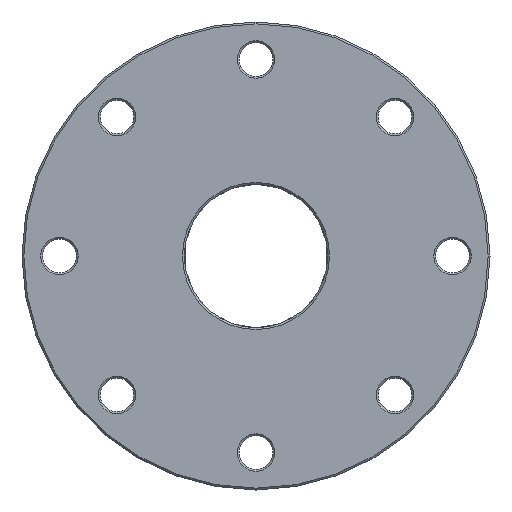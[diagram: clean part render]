
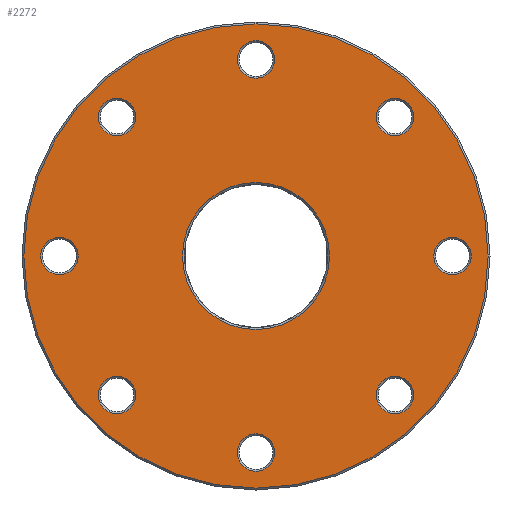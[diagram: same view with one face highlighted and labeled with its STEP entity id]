
A CAD part, front view. The second image highlights one B-rep face of the part: STEP entity #2272.
In plain terms, the highlighted planar face has unit normal (0, -1, 0).
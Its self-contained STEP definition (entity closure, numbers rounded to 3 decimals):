
#646=CARTESIAN_POINT('',(-74.246,-1.282,
-74.246));
#647=DIRECTION('',(0.,1.,0.));
#648=DIRECTION('',(0.707,0.,-0.707));
#649=AXIS2_PLACEMENT_3D('',#646,#647,#648);
#654=CARTESIAN_POINT('',(-74.246,-1.282,
-74.246));
#655=DIRECTION('',(0.,1.,0.));
#656=DIRECTION('',(-0.707,0.,0.707));
#657=AXIS2_PLACEMENT_3D('',#654,#655,#656);
#662=CARTESIAN_POINT('',(-105.,-1.282,0.));
#663=DIRECTION('',(0.,1.,0.));
#664=DIRECTION('',(0.,0.,-1.));
#665=AXIS2_PLACEMENT_3D('',#662,#663,#664);
#670=CARTESIAN_POINT('',(-105.,-1.282,0.));
#671=DIRECTION('',(0.,1.,0.));
#672=DIRECTION('',(0.,0.,1.));
#673=AXIS2_PLACEMENT_3D('',#670,#671,#672);
#678=CARTESIAN_POINT('',(-74.246,-1.282,74.246));
#679=DIRECTION('',(0.,1.,0.));
#680=DIRECTION('',(-0.707,0.,-0.707));
#681=AXIS2_PLACEMENT_3D('',#678,#679,#680);
#686=CARTESIAN_POINT('',(-74.246,-1.282,74.246));
#687=DIRECTION('',(0.,1.,0.));
#688=DIRECTION('',(0.707,0.,0.707));
#689=AXIS2_PLACEMENT_3D('',#686,#687,#688);
#694=CARTESIAN_POINT('',(0.,-1.282,105.));
#695=DIRECTION('',(0.,1.,0.));
#696=DIRECTION('',(-1.,0.,0.));
#697=AXIS2_PLACEMENT_3D('',#694,#695,#696);
#702=CARTESIAN_POINT('',(0.,-1.282,105.));
#703=DIRECTION('',(0.,1.,0.));
#704=DIRECTION('',(1.,0.,0.));
#705=AXIS2_PLACEMENT_3D('',#702,#703,#704);
#710=CARTESIAN_POINT('',(74.246,-1.282,74.246));
#711=DIRECTION('',(0.,1.,0.));
#712=DIRECTION('',(0.707,0.,-0.707));
#713=AXIS2_PLACEMENT_3D('',#710,#711,#712);
#718=CARTESIAN_POINT('',(74.246,-1.282,74.246));
#719=DIRECTION('',(0.,1.,0.));
#720=DIRECTION('',(-0.707,0.,0.707));
#721=AXIS2_PLACEMENT_3D('',#718,#719,#720);
#726=CARTESIAN_POINT('',(0.,-1.282,-105.));
#727=DIRECTION('',(0.,1.,0.));
#728=DIRECTION('',(1.,0.,0.));
#729=AXIS2_PLACEMENT_3D('',#726,#727,#728);
#734=CARTESIAN_POINT('',(0.,-1.282,-105.));
#735=DIRECTION('',(0.,1.,0.));
#736=DIRECTION('',(-1.,0.,0.));
#737=AXIS2_PLACEMENT_3D('',#734,#735,#736);
#742=CARTESIAN_POINT('',(105.,-1.282,0.));
#743=DIRECTION('',(0.,1.,0.));
#744=DIRECTION('',(0.,0.,-1.));
#745=AXIS2_PLACEMENT_3D('',#742,#743,#744);
#750=CARTESIAN_POINT('',(105.,-1.282,0.));
#751=DIRECTION('',(0.,1.,0.));
#752=DIRECTION('',(0.,0.,1.));
#753=AXIS2_PLACEMENT_3D('',#750,#751,#752);
#758=CARTESIAN_POINT('',(74.246,-1.282,-74.246));
#759=DIRECTION('',(0.,1.,0.));
#760=DIRECTION('',(-0.707,0.,-0.707));
#761=AXIS2_PLACEMENT_3D('',#758,#759,#760);
#766=CARTESIAN_POINT('',(74.246,-1.282,-74.246));
#767=DIRECTION('',(0.,1.,0.));
#768=DIRECTION('',(0.707,0.,0.707));
#769=AXIS2_PLACEMENT_3D('',#766,#767,#768);
#774=CARTESIAN_POINT('',(0.,-1.282,0.));
#775=DIRECTION('',(0.,-1.,0.));
#776=DIRECTION('',(1.,0.,0.));
#777=AXIS2_PLACEMENT_3D('',#774,#775,#776);
#782=CARTESIAN_POINT('',(0.,-1.282,0.));
#783=DIRECTION('',(0.,-1.,0.));
#784=DIRECTION('',(-1.,0.,0.));
#785=AXIS2_PLACEMENT_3D('',#782,#783,#784);
#790=CARTESIAN_POINT('',(0.,-1.282,0.));
#791=DIRECTION('',(0.,1.,0.));
#792=DIRECTION('',(-1.,0.,0.));
#793=AXIS2_PLACEMENT_3D('',#790,#791,#792);
#798=CARTESIAN_POINT('',(0.,-1.282,0.));
#799=DIRECTION('',(0.,1.,0.));
#800=DIRECTION('',(1.,0.,0.));
#801=AXIS2_PLACEMENT_3D('',#798,#799,#800);
#1593=CARTESIAN_POINT('',(-67.175,-1.282,
-81.317));
#1594=CARTESIAN_POINT('',(-81.317,-1.282,
-67.175));
#1595=VERTEX_POINT('',#1593);
#1596=VERTEX_POINT('',#1594);
#1601=CARTESIAN_POINT('',(-105.,-1.282,-10.));
#1602=CARTESIAN_POINT('',(-105.,-1.282,10.));
#1603=VERTEX_POINT('',#1601);
#1604=VERTEX_POINT('',#1602);
#1609=CARTESIAN_POINT('',(-81.317,-1.282,
67.175));
#1610=CARTESIAN_POINT('',(-67.175,-1.282,
81.317));
#1611=VERTEX_POINT('',#1609);
#1612=VERTEX_POINT('',#1610);
#1617=CARTESIAN_POINT('',(-10.,-1.282,105.));
#1618=CARTESIAN_POINT('',(10.,-1.282,105.));
#1619=VERTEX_POINT('',#1617);
#1620=VERTEX_POINT('',#1618);
#1625=CARTESIAN_POINT('',(81.317,-1.282,67.175));
#1626=CARTESIAN_POINT('',(67.175,-1.282,81.317));
#1627=VERTEX_POINT('',#1625);
#1628=VERTEX_POINT('',#1626);
#1633=CARTESIAN_POINT('',(10.,-1.282,-105.));
#1634=CARTESIAN_POINT('',(-10.,-1.282,-105.));
#1635=VERTEX_POINT('',#1633);
#1636=VERTEX_POINT('',#1634);
#1641=CARTESIAN_POINT('',(105.,-1.282,-10.));
#1642=CARTESIAN_POINT('',(105.,-1.282,10.));
#1643=VERTEX_POINT('',#1641);
#1644=VERTEX_POINT('',#1642);
#1649=CARTESIAN_POINT('',(67.175,-1.282,
-81.317));
#1650=CARTESIAN_POINT('',(81.317,-1.282,
-67.175));
#1651=VERTEX_POINT('',#1649);
#1652=VERTEX_POINT('',#1650);
#1721=CARTESIAN_POINT('',(124.,-1.282,0.));
#1722=CARTESIAN_POINT('',(-124.,-1.282,0.));
#1723=VERTEX_POINT('',#1721);
#1724=VERTEX_POINT('',#1722);
#1737=CARTESIAN_POINT('',(-39.281,-1.282,0.));
#1738=CARTESIAN_POINT('',(39.281,-1.282,0.));
#1739=VERTEX_POINT('',#1737);
#1740=VERTEX_POINT('',#1738);
#2208=CARTESIAN_POINT('',(0.,-1.282,0.));
#2209=DIRECTION('',(0.,-1.,0.));
#2210=DIRECTION('',(1.,0.,0.));
#2211=AXIS2_PLACEMENT_3D('',#2208,#2209,#2210);
#2212=PLANE('',#2211);
#2214=ORIENTED_EDGE('',*,*,#2213,.F.);
#2216=ORIENTED_EDGE('',*,*,#2215,.F.);
#2217=EDGE_LOOP('',(#2214,#2216));
#2218=FACE_OUTER_BOUND('',#2217,.F.);
#2220=ORIENTED_EDGE('',*,*,#2219,.F.);
#2222=ORIENTED_EDGE('',*,*,#2221,.F.);
#2223=EDGE_LOOP('',(#2220,#2222));
#2224=FACE_BOUND('',#2223,.F.);
#2226=ORIENTED_EDGE('',*,*,#2225,.F.);
#2228=ORIENTED_EDGE('',*,*,#2227,.F.);
#2229=EDGE_LOOP('',(#2226,#2228));
#2230=FACE_BOUND('',#2229,.F.);
#2232=ORIENTED_EDGE('',*,*,#2231,.F.);
#2234=ORIENTED_EDGE('',*,*,#2233,.F.);
#2235=EDGE_LOOP('',(#2232,#2234));
#2236=FACE_BOUND('',#2235,.F.);
#2238=ORIENTED_EDGE('',*,*,#2237,.F.);
#2240=ORIENTED_EDGE('',*,*,#2239,.F.);
#2241=EDGE_LOOP('',(#2238,#2240));
#2242=FACE_BOUND('',#2241,.F.);
#2244=ORIENTED_EDGE('',*,*,#2243,.F.);
#2246=ORIENTED_EDGE('',*,*,#2245,.F.);
#2247=EDGE_LOOP('',(#2244,#2246));
#2248=FACE_BOUND('',#2247,.F.);
#2250=ORIENTED_EDGE('',*,*,#2249,.F.);
#2252=ORIENTED_EDGE('',*,*,#2251,.F.);
#2253=EDGE_LOOP('',(#2250,#2252));
#2254=FACE_BOUND('',#2253,.F.);
#2256=ORIENTED_EDGE('',*,*,#2255,.F.);
#2258=ORIENTED_EDGE('',*,*,#2257,.F.);
#2259=EDGE_LOOP('',(#2256,#2258));
#2260=FACE_BOUND('',#2259,.F.);
#2262=ORIENTED_EDGE('',*,*,#2261,.F.);
#2264=ORIENTED_EDGE('',*,*,#2263,.F.);
#2265=EDGE_LOOP('',(#2262,#2264));
#2266=FACE_BOUND('',#2265,.F.);
#2267=ORIENTED_EDGE('',*,*,#2198,.F.);
#2269=ORIENTED_EDGE('',*,*,#2268,.F.);
#2270=EDGE_LOOP('',(#2267,#2269));
#2271=FACE_BOUND('',#2270,.F.);
#650=CIRCLE('',#649,10.);
#658=CIRCLE('',#657,10.);
#666=CIRCLE('',#665,10.);
#674=CIRCLE('',#673,10.);
#682=CIRCLE('',#681,10.);
#690=CIRCLE('',#689,10.);
#698=CIRCLE('',#697,10.);
#706=CIRCLE('',#705,10.);
#714=CIRCLE('',#713,10.);
#722=CIRCLE('',#721,10.);
#730=CIRCLE('',#729,10.);
#738=CIRCLE('',#737,10.);
#746=CIRCLE('',#745,10.);
#754=CIRCLE('',#753,10.);
#762=CIRCLE('',#761,10.);
#770=CIRCLE('',#769,10.);
#778=CIRCLE('',#777,124.);
#786=CIRCLE('',#785,124.);
#794=CIRCLE('',#793,39.281);
#802=CIRCLE('',#801,39.281);
#2198=EDGE_CURVE('',#1739,#1740,#794,.T.);
#2213=EDGE_CURVE('',#1723,#1724,#778,.T.);
#2215=EDGE_CURVE('',#1724,#1723,#786,.T.);
#2219=EDGE_CURVE('',#1603,#1604,#666,.T.);
#2221=EDGE_CURVE('',#1604,#1603,#674,.T.);
#2225=EDGE_CURVE('',#1611,#1612,#682,.T.);
#2227=EDGE_CURVE('',#1612,#1611,#690,.T.);
#2231=EDGE_CURVE('',#1619,#1620,#698,.T.);
#2233=EDGE_CURVE('',#1620,#1619,#706,.T.);
#2237=EDGE_CURVE('',#1627,#1628,#714,.T.);
#2239=EDGE_CURVE('',#1628,#1627,#722,.T.);
#2243=EDGE_CURVE('',#1635,#1636,#730,.T.);
#2245=EDGE_CURVE('',#1636,#1635,#738,.T.);
#2249=EDGE_CURVE('',#1643,#1644,#746,.T.);
#2251=EDGE_CURVE('',#1644,#1643,#754,.T.);
#2255=EDGE_CURVE('',#1651,#1652,#762,.T.);
#2257=EDGE_CURVE('',#1652,#1651,#770,.T.);
#2261=EDGE_CURVE('',#1595,#1596,#650,.T.);
#2263=EDGE_CURVE('',#1596,#1595,#658,.T.);
#2268=EDGE_CURVE('',#1740,#1739,#802,.T.);
#2272=ADVANCED_FACE('',(#2218,#2224,#2230,#2236,#2242,#2248,#2254,#2260,#2266,
#2271),#2212,.T.);
